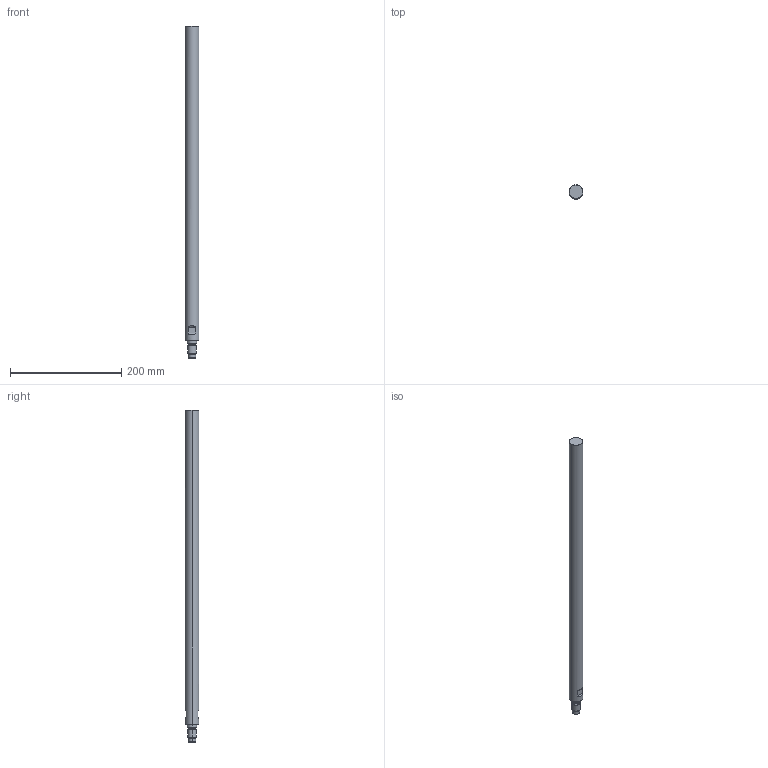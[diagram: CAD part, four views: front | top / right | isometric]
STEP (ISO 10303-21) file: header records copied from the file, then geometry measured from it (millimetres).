
FILE_DESCRIPTION (( 'STEP AP214' ), '1' );
FILE_NAME ('Rührwelle für 600 Liter IBC mit Gewindenabe_6104.STEP', '2024-04-04T09:22:27', ( '' ), ( '' ), 'SwSTEP 2.0', 'SolidWorks 2022', '' );
FILE_SCHEMA (( 'AUTOMOTIVE_DESIGN' ));
Length unit declared in the file: millimetre
Products named in the file (1): Rührwelle für 600 Liter IBC mit Gewindenabe_6104
Bounding box: 25 x 25 x 598 mm (x, y, z)
Volume: 283280.2 mm3; surface area: 47010.5 mm2
Topology: 1 solids, 2 shells, 38 faces, 74 edges, 44 vertices
Faces by surface type: cylinder 18, cone 8, plane 8, torus 4
Entity records: 1176 total; most frequent: CARTESIAN_POINT 313, DIRECTION 188, ORIENTED_EDGE 148, AXIS2_PLACEMENT_3D 79, EDGE_CURVE 74, EDGE_LOOP 44, VERTEX_POINT 44, CIRCLE 40
